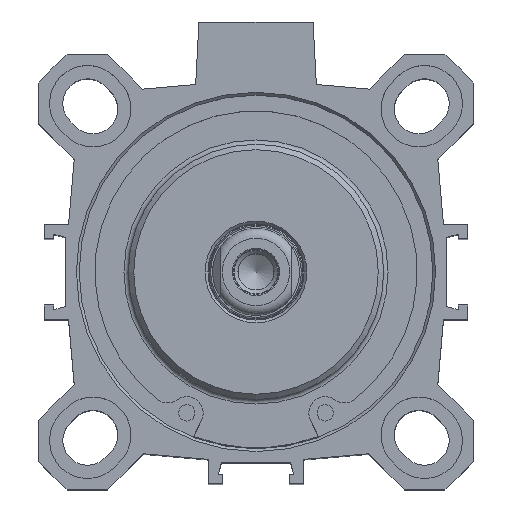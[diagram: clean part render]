
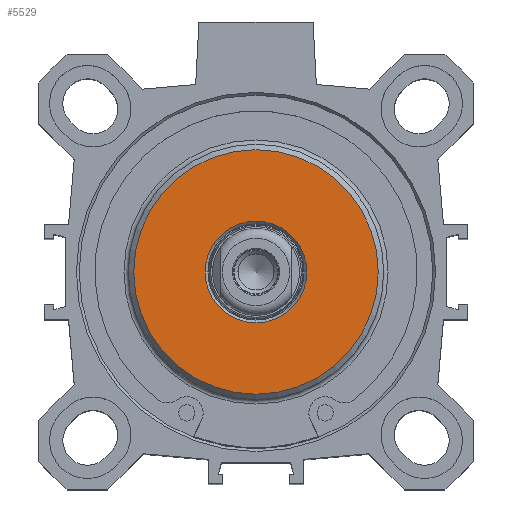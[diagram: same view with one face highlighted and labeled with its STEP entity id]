
A CAD part, top view. The second image highlights one B-rep face of the part: STEP entity #5529.
In plain terms, the highlighted planar face has unit normal (0, 0, 1).
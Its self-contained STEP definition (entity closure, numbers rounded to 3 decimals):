
#840=PLANE('',#5903);
#1684=ORIENTED_EDGE('',*,*,#2283,.F.);
#1685=ORIENTED_EDGE('',*,*,#2284,.T.);
#2283=EDGE_CURVE('',#2667,#2667,#2850,.T.);
#2284=EDGE_CURVE('',#2668,#2668,#2851,.T.);
#2667=VERTEX_POINT('',#8232);
#2668=VERTEX_POINT('',#8235);
#2850=CIRCLE('',#5902,9.35);
#2851=CIRCLE('',#5904,22.5);
#3160=EDGE_LOOP('',(#1684));
#3161=EDGE_LOOP('',(#1685));
#3505=FACE_BOUND('',#3160,.T.);
#3506=FACE_BOUND('',#3161,.T.);
#5529=ADVANCED_FACE('',(#3505,#3506),#840,.T.);
#5902=AXIS2_PLACEMENT_3D('',#8231,#6908,#6909);
#5903=AXIS2_PLACEMENT_3D('',#8233,#6910,#6911);
#5904=AXIS2_PLACEMENT_3D('',#8234,#6912,#6913);
#6908=DIRECTION('',(0.,0.,1.));
#6909=DIRECTION('',(0.,1.,0.));
#6910=DIRECTION('',(0.,0.,1.));
#6911=DIRECTION('',(1.,0.,0.));
#6912=DIRECTION('',(0.,0.,1.));
#6913=DIRECTION('',(0.,1.,0.));
#8231=CARTESIAN_POINT('',(0.,0.,86.35));
#8232=CARTESIAN_POINT('',(0.,9.35,86.35));
#8233=CARTESIAN_POINT('',(0.,15.925,86.35));
#8234=CARTESIAN_POINT('',(0.,0.,86.35));
#8235=CARTESIAN_POINT('',(0.,22.5,86.35));
